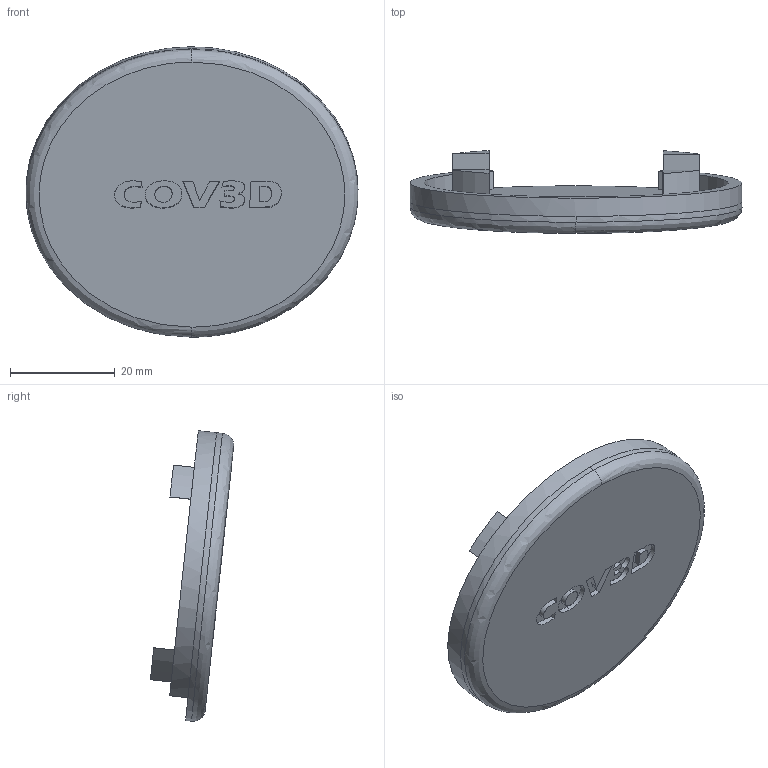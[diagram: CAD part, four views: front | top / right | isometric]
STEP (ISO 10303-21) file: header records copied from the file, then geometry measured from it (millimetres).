
FILE_DESCRIPTION(/* description */ (''),/* implementation_level */ '2;1');
FILE_NAME(/* name */ 'S-NARR~3',/* time_stamp */ '2020-04-10T21:25:21+03:00',/* author */ (''),/* organization */ (''),/* preprocessor_version */ 'ST-DEVELOPER v16.5',/* originating_system */ '',/* authorisation */ '');
FILE_SCHEMA (('AUTOMOTIVE_DESIGN'));
Length unit declared in the file: millimetre
Products named in the file (1): Document
Bounding box: 63.38 x 15.9 x 55.45 mm (x, y, z)
Volume: 11329.2 mm3; surface area: 7813.8 mm2
Topology: 1 solids, 1 shells, 67 faces, 158 edges, 104 vertices
Faces by surface type: bspline 44, plane 23
Entity records: 2836 total; most frequent: CARTESIAN_POINT 1768, ORIENTED_EDGE 316, EDGE_CURVE 158, B_SPLINE_CURVE_WITH_KNOTS 131, VERTEX_POINT 104, EDGE_LOOP 78, ADVANCED_FACE 67, FACE_OUTER_BOUND 67
